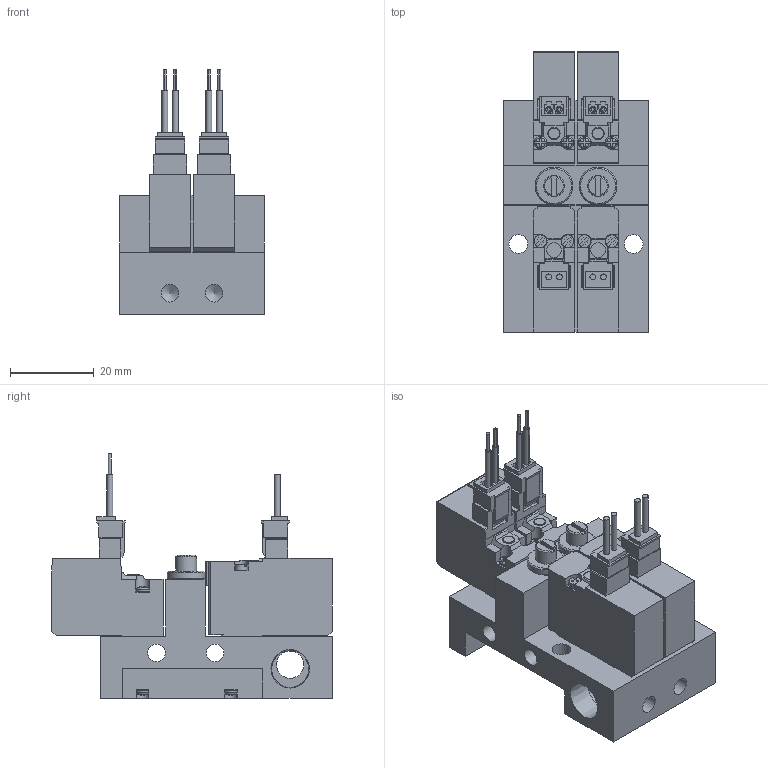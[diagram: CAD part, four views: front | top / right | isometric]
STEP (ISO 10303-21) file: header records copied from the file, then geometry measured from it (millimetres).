
FILE_DESCRIPTION(('STEP AP203'),'1');
FILE_NAME('2-NO(NC)-4EZ-M02.stp','2025-05-09T00:46:21',(' '),(' '),'Spatial InterOp 3D',' ',' ');
FILE_SCHEMA(('CONFIG_CONTROL_DESIGN'));
Length unit declared in the file: millimetre
Products named in the file (24): PV1※2-NO(NC)-4EZ-M02; BODY; PLATE; NEEDLE; BOLT; SOLENOID VALVE VOLTAGE PV; 42; 45; 48; 51; SOLENOID VALVE VOLTAGE PV-NC2
Assembly tree (23 placements, depth 3):
  PV1※2-NO(NC)-4EZ-M02
    BODY
    PLATE
    PLATE
    NEEDLE
    NEEDLE
    BOLT
    BOLT
    BOLT
    BOLT
    BOLT
    BOLT
    SOLENOID VALVE VOLTAGE PV
      42
      45
      48
      51
    SOLENOID VALVE VOLTAGE PV
      42
      45
      48
      51
    SOLENOID VALVE VOLTAGE PV-NC2
    SOLENOID VALVE VOLTAGE PV-NC2
Bounding box: 34.5 x 66.8 x 58.25 mm (x, y, z)
Volume: 47177.6 mm3; surface area: 24284.2 mm2
Topology: 21 solids, 21 shells, 823 faces, 2288 edges, 1553 vertices
Faces by surface type: plane 610, cylinder 147, torus 32, bspline 20, cone 14
Full cylindrical faces by diameter (mm): 1.4 x4, 2 x6, 3 x10, 3.5 x2, 4.2 x6, 4.5 x2, 5 x2, 6.5 x1, 8.797 x2, 9 x2
Entity records: 27466 total; most frequent: CARTESIAN_POINT 4975, DIRECTION 4442, ORIENTED_EDGE 4396, EDGE_CURVE 2198, VERTEX_POINT 1524, LINE 1516, VECTOR 1516, AXIS2_PLACEMENT_3D 1463
